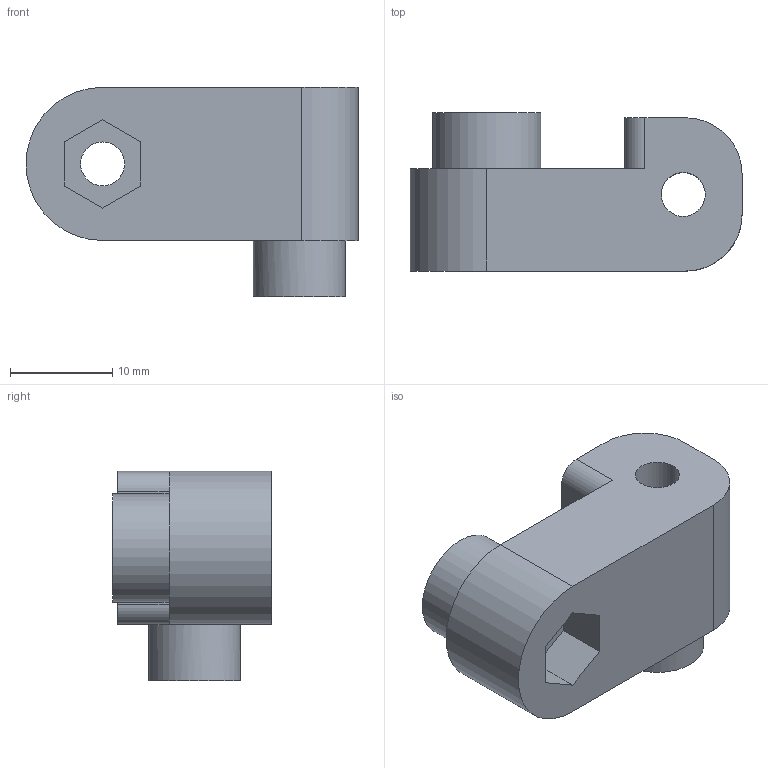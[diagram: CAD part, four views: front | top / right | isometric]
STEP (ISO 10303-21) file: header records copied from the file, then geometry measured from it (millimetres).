
FILE_DESCRIPTION(/* description */ ('STEP AP242 Edition 2','CAx-IF Rec.Pracs.---Representation and Presentation of Product Manufacturing Information (PMI)---4.0---2014-10-13','CAx-IF Rec.Pracs.---3D Tessellated Geometry---0.4---2014-09-14','2;1','CAx-IF Rec.Pracs.---User Defined Attributes---1.5---2016-08-15'),/* implementation_level */ '2;1');
FILE_NAME(/* name */ 'Assembly 1 - Joint 2',/* time_stamp */ '2026-06-23T19:13:02Z',/* author */ (''),/* organization */ (''),/* preprocessor_version */ 'ST-DEVELOPER v20',/* originating_system */ 'ONSHAPE BY PTC INC, 1.216',/* authorisation */ ' ');
FILE_SCHEMA (('AP242_MANAGED_MODEL_BASED_3D_ENGINEERING_MIM_LF { 1 0 10303 442 3 1 4 }'));
Length unit declared in the file: metre
Products named in the file (1): Joint 2
Bounding box: 32.5 x 15.5 x 20.5 mm (x, y, z)
Volume: 5203 mm3; surface area: 2884.4 mm2
Topology: 1 solids, 1 shells, 29 faces, 67 edges, 44 vertices
Faces by surface type: plane 18, cylinder 11
Full cylindrical faces by diameter (mm): 4.3 x2, 6 x1, 7.4 x1, 9.014 x1, 10.6 x1
Entity records: 818 total; most frequent: DIRECTION 142, CARTESIAN_POINT 133, ORIENTED_EDGE 120, EDGE_CURVE 60, AXIS2_PLACEMENT_3D 52, VERTEX_POINT 43, EDGE_LOOP 43, FACE_BOUND 43
